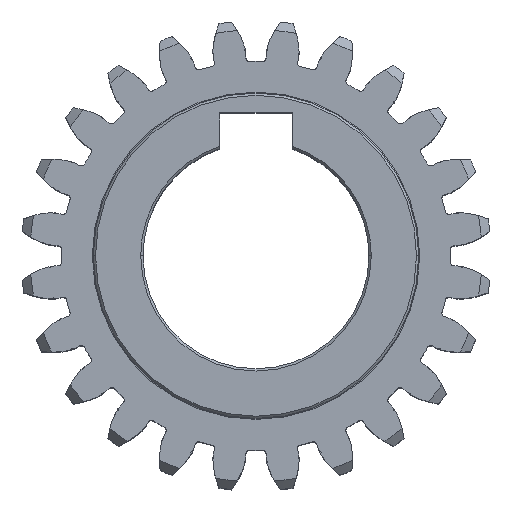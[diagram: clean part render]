
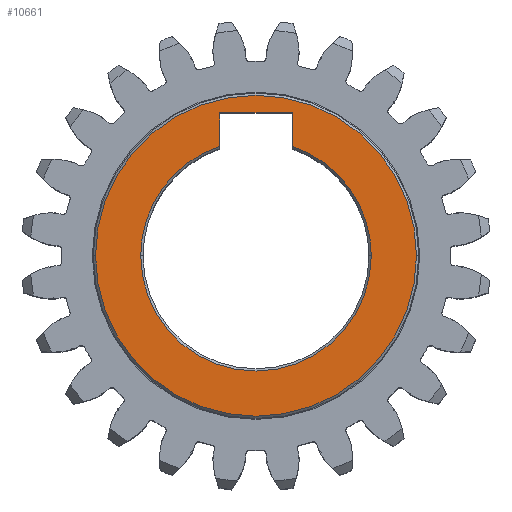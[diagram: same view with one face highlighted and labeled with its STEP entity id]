
A CAD part, top view. The second image highlights one B-rep face of the part: STEP entity #10661.
In plain terms, the highlighted planar face has unit normal (0, 0, 1).
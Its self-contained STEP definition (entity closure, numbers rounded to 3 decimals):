
#165 = EDGE_CURVE ( 'NONE', #11283, #10067, #12692, .T. ) ;
#195 = CARTESIAN_POINT ( 'NONE',  ( 0., 0., 15. ) ) ;
#336 = AXIS2_PLACEMENT_3D ( 'NONE', #195, #1333, #2543 ) ;
#348 = CIRCLE ( 'NONE', #10938, 17.75 ) ;
#474 = VERTEX_POINT ( 'NONE', #7915 ) ;
#857 = DIRECTION ( 'NONE',  ( 1., 0., 0. ) ) ;
#932 = LINE ( 'NONE', #11461, #7043 ) ;
#1297 = EDGE_CURVE ( 'NONE', #474, #13389, #13147, .T. ) ;
#1299 = VERTEX_POINT ( 'NONE', #3394 ) ;
#1333 = DIRECTION ( 'NONE',  ( 0., 0., -1. ) ) ;
#1500 = CARTESIAN_POINT ( 'NONE',  ( -4., 12.106, 15. ) ) ;
#1567 = EDGE_CURVE ( 'NONE', #2017, #1299, #13430, .T. ) ;
#1839 = EDGE_LOOP ( 'NONE', ( #9554, #14163 ) ) ;
#1990 = CARTESIAN_POINT ( 'NONE',  ( 0., 0., 15. ) ) ;
#2017 = VERTEX_POINT ( 'NONE', #1500 ) ;
#2140 = FACE_BOUND ( 'NONE', #8596, .T. ) ;
#2367 = DIRECTION ( 'NONE',  ( 0., 0., -1. ) ) ;
#2543 = DIRECTION ( 'NONE',  ( 1., 0., 0. ) ) ;
#2576 = CARTESIAN_POINT ( 'NONE',  ( 12.75, 0., 15. ) ) ;
#2887 = LINE ( 'NONE', #13070, #8540 ) ;
#2946 = ORIENTED_EDGE ( 'NONE', *, *, #1567, .T. ) ;
#3053 = DIRECTION ( 'NONE',  ( 1., 0., 0. ) ) ;
#3147 = ORIENTED_EDGE ( 'NONE', *, *, #165, .T. ) ;
#3168 = CARTESIAN_POINT ( 'NONE',  ( 0., 0., 15. ) ) ;
#3271 = EDGE_CURVE ( 'NONE', #1299, #3583, #2887, .T. ) ;
#3335 = FACE_OUTER_BOUND ( 'NONE', #1839, .T. ) ;
#3394 = CARTESIAN_POINT ( 'NONE',  ( -4., 15.8, 15. ) ) ;
#3583 = VERTEX_POINT ( 'NONE', #8741 ) ;
#4385 = CARTESIAN_POINT ( 'NONE',  ( 0., 0., 15. ) ) ;
#4458 = DIRECTION ( 'NONE',  ( 0., -1., 0. ) ) ;
#4793 = CARTESIAN_POINT ( 'NONE',  ( 4., 12.106, 15. ) ) ;
#5561 = CARTESIAN_POINT ( 'NONE',  ( -17.75, 0., 15. ) ) ;
#6239 = EDGE_CURVE ( 'NONE', #9162, #2017, #14040, .T. ) ;
#6619 = AXIS2_PLACEMENT_3D ( 'NONE', #1990, #10251, #857 ) ;
#6768 = DIRECTION ( 'NONE',  ( 0., 1., 0. ) ) ;
#6946 = DIRECTION ( 'NONE',  ( 1., 0., 0. ) ) ;
#7043 = VECTOR ( 'NONE', #4458, 1000. ) ;
#7248 = DIRECTION ( 'NONE',  ( 1., 0., 0. ) ) ;
#7563 = AXIS2_PLACEMENT_3D ( 'NONE', #4385, #14496, #3053 ) ;
#7894 = EDGE_CURVE ( 'NONE', #3583, #11283, #932, .T. ) ;
#7915 = CARTESIAN_POINT ( 'NONE',  ( 17.75, 0., 15. ) ) ;
#8207 = AXIS2_PLACEMENT_3D ( 'NONE', #14499, #13392, #10118 ) ;
#8540 = VECTOR ( 'NONE', #7248, 1000. ) ;
#8596 = EDGE_LOOP ( 'NONE', ( #13174, #3147, #9334, #12958, #2946, #9000 ) ) ;
#8741 = CARTESIAN_POINT ( 'NONE',  ( 4., 15.8, 15. ) ) ;
#9000 = ORIENTED_EDGE ( 'NONE', *, *, #3271, .T. ) ;
#9026 = DIRECTION ( 'NONE',  ( 0., 0., 1. ) ) ;
#9027 = VECTOR ( 'NONE', #6768, 1000. ) ;
#9162 = VERTEX_POINT ( 'NONE', #10759 ) ;
#9334 = ORIENTED_EDGE ( 'NONE', *, *, #12523, .T. ) ;
#9554 = ORIENTED_EDGE ( 'NONE', *, *, #13679, .T. ) ;
#9918 = CIRCLE ( 'NONE', #8207, 12.75 ) ;
#10067 = VERTEX_POINT ( 'NONE', #2576 ) ;
#10114 = PLANE ( 'NONE',  #7563 ) ;
#10118 = DIRECTION ( 'NONE',  ( 1., 0., 0. ) ) ;
#10251 = DIRECTION ( 'NONE',  ( 0., 0., 1. ) ) ;
#10661 = ADVANCED_FACE ( 'NONE', ( #3335, #2140 ), #10114, .T. ) ;
#10759 = CARTESIAN_POINT ( 'NONE',  ( -12.75, 0., 15. ) ) ;
#10938 = AXIS2_PLACEMENT_3D ( 'NONE', #3168, #9026, #13641 ) ;
#11092 = CARTESIAN_POINT ( 'NONE',  ( -4., 9.2, 15. ) ) ;
#11283 = VERTEX_POINT ( 'NONE', #4793 ) ;
#11461 = CARTESIAN_POINT ( 'NONE',  ( 4., 9.2, 15. ) ) ;
#12523 = EDGE_CURVE ( 'NONE', #10067, #9162, #9918, .T. ) ;
#12692 = CIRCLE ( 'NONE', #13192, 12.75 ) ;
#12695 = CARTESIAN_POINT ( 'NONE',  ( 0., 0., 15. ) ) ;
#12958 = ORIENTED_EDGE ( 'NONE', *, *, #6239, .T. ) ;
#13070 = CARTESIAN_POINT ( 'NONE',  ( 4., 15.8, 15. ) ) ;
#13147 = CIRCLE ( 'NONE', #6619, 17.75 ) ;
#13174 = ORIENTED_EDGE ( 'NONE', *, *, #7894, .T. ) ;
#13192 = AXIS2_PLACEMENT_3D ( 'NONE', #12695, #2367, #6946 ) ;
#13389 = VERTEX_POINT ( 'NONE', #5561 ) ;
#13392 = DIRECTION ( 'NONE',  ( 0., 0., -1. ) ) ;
#13430 = LINE ( 'NONE', #11092, #9027 ) ;
#13641 = DIRECTION ( 'NONE',  ( 1., 0., 0. ) ) ;
#13679 = EDGE_CURVE ( 'NONE', #13389, #474, #348, .T. ) ;
#14040 = CIRCLE ( 'NONE', #336, 12.75 ) ;
#14163 = ORIENTED_EDGE ( 'NONE', *, *, #1297, .T. ) ;
#14496 = DIRECTION ( 'NONE',  ( 0., 0., 1. ) ) ;
#14499 = CARTESIAN_POINT ( 'NONE',  ( 0., 0., 15. ) ) ;
